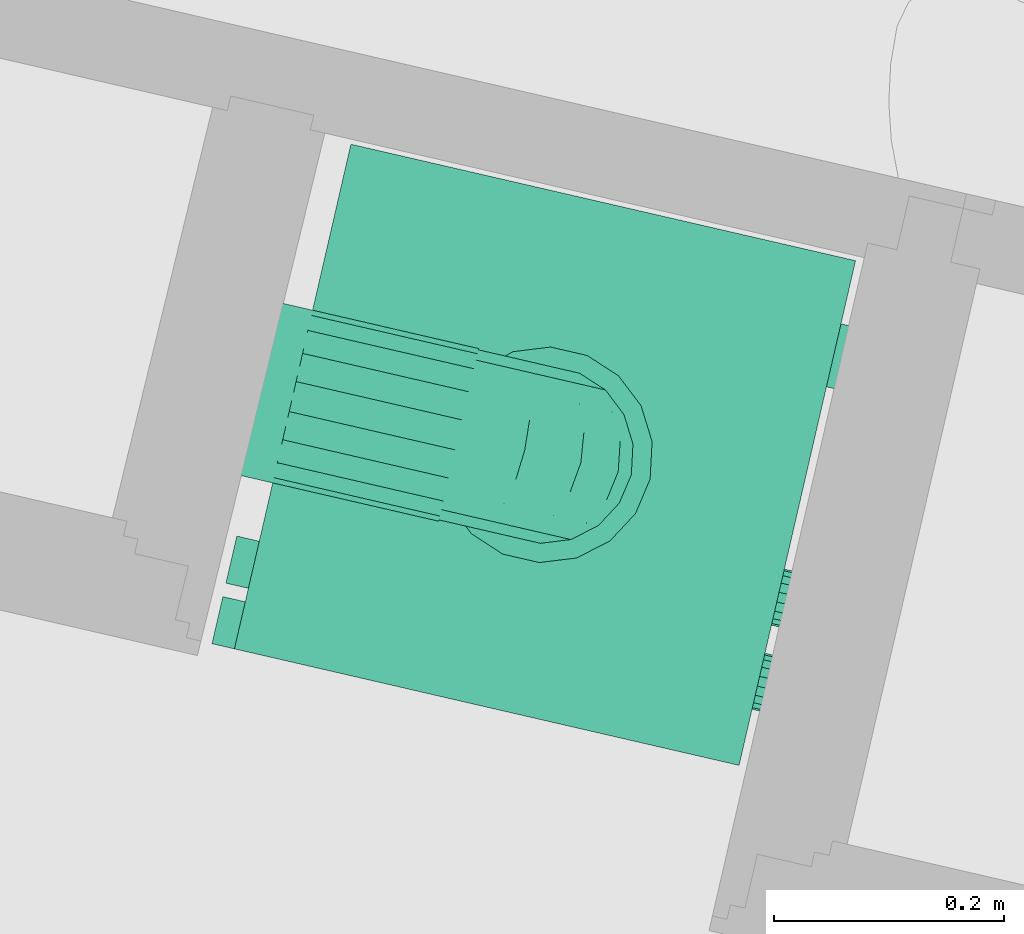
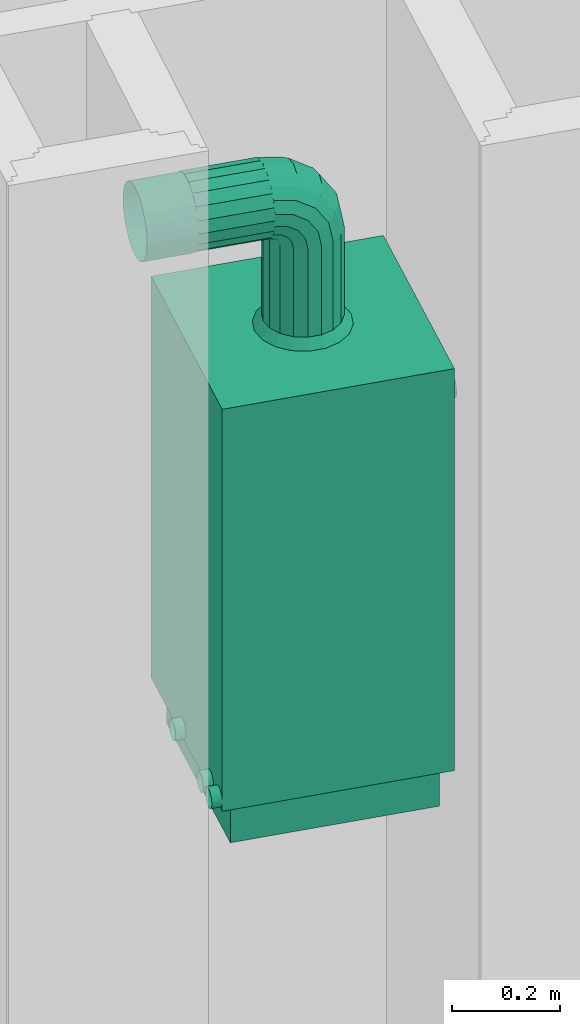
# One storey, part 76 of 90: 1 energy conversion device.
"""IFC2X3 building model written with IfcOpenShell, lengths in metres."""

from ifc_helpers import new_model, entity, si_unit, converted_unit, derived_unit, money_unit, direction, frame, origin_with_axes, place, context, subcontext, project, spatial, open_shell, faceted_brep, surface_model, source, transform, mapped, type_object, element, save


model = new_model("IFC2X3")

# Units and contexts
model_context = context("Model", 3, precision=1e-05, world=origin_with_axes(), true_north=direction((0.0, 1.0)))
body_context = subcontext(model_context, "Body", "Model", "MODEL_VIEW")
ifc_project = project(units=[si_unit("LENGTHUNIT", "METRE"), si_unit("AREAUNIT", "SQUARE_METRE"), si_unit("VOLUMEUNIT", "CUBIC_METRE"), converted_unit("PLANEANGLEUNIT", "DEGREE", entity("IfcPlaneAngleMeasure", 0.0174532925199), si_unit("PLANEANGLEUNIT", "RADIAN"), dimensions=[0, 0, 0, 0, 0, 0, 0]), si_unit("SOLIDANGLEUNIT", "STERADIAN"), money_unit("EUR"), converted_unit("TIMEUNIT", "Year", entity("IfcTimeMeasure", 31556926.0), si_unit("TIMEUNIT", "SECOND"), dimensions=[0, 0, 1, 0, 0, 0, 0]), si_unit("MASSUNIT", "GRAM", prefix="KILO"), si_unit("THERMODYNAMICTEMPERATUREUNIT", "DEGREE_CELSIUS"), si_unit("LUMINOUSINTENSITYUNIT", "LUMEN"), si_unit("ENERGYUNIT", "JOULE", prefix="MEGA"), derived_unit("THERMALCONDUCTANCEUNIT", [(si_unit("POWERUNIT", "WATT"), 1), (si_unit("LENGTHUNIT", "METRE"), -1), (si_unit("THERMODYNAMICTEMPERATUREUNIT", "KELVIN"), -1)]), derived_unit("SPECIFICHEATCAPACITYUNIT", [(si_unit("ENERGYUNIT", "JOULE"), 1), (si_unit("MASSUNIT", "GRAM", prefix="KILO"), -1), (si_unit("THERMODYNAMICTEMPERATUREUNIT", "KELVIN"), -1)]), derived_unit("MASSDENSITYUNIT", [(si_unit("MASSUNIT", "GRAM", prefix="KILO"), 1), (si_unit("VOLUMEUNIT", "CUBIC_METRE"), -1)])], contexts=[model_context])

# Site, building, storey
site_placement = place(None, origin_with_axes())
site = spatial("IfcSite", under=ifc_project, at=site_placement, Name="Site", CompositionType="ELEMENT")
building_placement = place(site_placement, origin_with_axes())
building = spatial("IfcBuilding", under=site, at=building_placement, Name="Bâtiment", CompositionType="ELEMENT")
storey_placement = place(building_placement, frame((0.0, 0.0, 2.72), z_axis=(0.0, 0.0, 1.0), x_axis=(1.0, 0.0, 0.0)))
storey = spatial("IfcBuildingStorey", under=building, at=storey_placement, Name="R+1", CompositionType="ELEMENT", Elevation=2.72)

# Energy conversion device
boiler_type = type_object("IfcBoilerType", Name="Chaudière à gaz 23", PredefinedType="WATER")
shared_shape = source(origin_with_axes(), body_context, "Body", "SurfaceModel", [
    surface_model("IfcShellBasedSurfaceModel", [(-0.2, 0.45, 0.090909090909), (-0.2, 0.47, 0.090909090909), (-0.194564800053, 0.47, 0.0916246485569), (-0.194564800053, 0.45, 0.0916246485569), (-0.205435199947, 0.45, 0.0916246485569), (-0.205435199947, 0.47, 0.0916246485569), (-0.1895, 0.47, 0.0937225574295), (-0.1895, 0.45, 0.0937225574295), (-0.2105, 0.45, 0.0937225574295), (-0.2105, 0.47, 0.0937225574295), (-0.185150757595, 0.47, 0.0970598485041), (-0.185150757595, 0.45, 0.0970598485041), (-0.214849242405, 0.45, 0.0970598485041), (-0.214849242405, 0.47, 0.0970598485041), (-0.181813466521, 0.47, 0.101409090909), (-0.181813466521, 0.45, 0.101409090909), (-0.218186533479, 0.45, 0.101409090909), (-0.218186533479, 0.47, 0.101409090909), (-0.179715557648, 0.47, 0.106473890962), (-0.179715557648, 0.45, 0.106473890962), (-0.220284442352, 0.45, 0.106473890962), (-0.220284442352, 0.47, 0.106473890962), (-0.179, 0.47, 0.111909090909), (-0.179, 0.45, 0.111909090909), (-0.221, 0.45, 0.111909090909), (-0.221, 0.47, 0.111909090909), (-0.179715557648, 0.47, 0.117344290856), (-0.179715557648, 0.45, 0.117344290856), (-0.220284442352, 0.45, 0.117344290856), (-0.220284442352, 0.47, 0.117344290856), (-0.181813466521, 0.47, 0.122409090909), (-0.181813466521, 0.45, 0.122409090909), (-0.218186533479, 0.45, 0.122409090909), (-0.218186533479, 0.47, 0.122409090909), (-0.185150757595, 0.47, 0.126758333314), (-0.185150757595, 0.45, 0.126758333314), (-0.214849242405, 0.45, 0.126758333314), (-0.214849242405, 0.47, 0.126758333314), (-0.1895, 0.47, 0.130095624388), (-0.1895, 0.45, 0.130095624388), (-0.2105, 0.45, 0.130095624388), (-0.2105, 0.47, 0.130095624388), (-0.194564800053, 0.47, 0.132193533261), (-0.194564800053, 0.45, 0.132193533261), (-0.205435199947, 0.45, 0.132193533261), (-0.205435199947, 0.47, 0.132193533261), (-0.2, 0.47, 0.132909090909), (-0.2, 0.45, 0.132909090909)], [open_shell([[[0, 1, 2, 3]], [[4, 5, 1, 0]], [[3, 2, 6, 7]], [[8, 9, 5, 4]], [[7, 6, 10, 11]], [[12, 13, 9, 8]], [[11, 10, 14, 15]], [[16, 17, 13, 12]], [[15, 14, 18, 19]], [[20, 21, 17, 16]], [[19, 18, 22, 23]], [[24, 25, 21, 20]], [[23, 22, 26, 27]], [[28, 29, 25, 24]], [[27, 26, 30, 31]], [[32, 33, 29, 28]], [[31, 30, 34, 35]], [[36, 37, 33, 32]], [[35, 34, 38, 39]], [[40, 41, 37, 36]], [[39, 38, 42, 43]], [[44, 45, 41, 40]], [[43, 42, 46, 47]], [[47, 46, 45, 44]]])]),
    surface_model("IfcShellBasedSurfaceModel", [(-0.375, 0.45, 0.090909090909), (-0.375, 0.47, 0.090909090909), (-0.369564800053, 0.47, 0.0916246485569), (-0.369564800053, 0.45, 0.0916246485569), (-0.380435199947, 0.45, 0.0916246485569), (-0.380435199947, 0.47, 0.0916246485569), (-0.3645, 0.47, 0.0937225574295), (-0.3645, 0.45, 0.0937225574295), (-0.3855, 0.45, 0.0937225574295), (-0.3855, 0.47, 0.0937225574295), (-0.360150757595, 0.47, 0.0970598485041), (-0.360150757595, 0.45, 0.0970598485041), (-0.389849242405, 0.45, 0.0970598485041), (-0.389849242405, 0.47, 0.0970598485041), (-0.356813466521, 0.47, 0.101409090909), (-0.356813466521, 0.45, 0.101409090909), (-0.393186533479, 0.45, 0.101409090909), (-0.393186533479, 0.47, 0.101409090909), (-0.354715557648, 0.47, 0.106473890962), (-0.354715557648, 0.45, 0.106473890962), (-0.395284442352, 0.45, 0.106473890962), (-0.395284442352, 0.47, 0.106473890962), (-0.354, 0.47, 0.111909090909), (-0.354, 0.45, 0.111909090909), (-0.396, 0.45, 0.111909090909), (-0.396, 0.47, 0.111909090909), (-0.354715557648, 0.47, 0.117344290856), (-0.354715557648, 0.45, 0.117344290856), (-0.395284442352, 0.45, 0.117344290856), (-0.395284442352, 0.47, 0.117344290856), (-0.356813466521, 0.47, 0.122409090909), (-0.356813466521, 0.45, 0.122409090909), (-0.393186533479, 0.45, 0.122409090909), (-0.393186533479, 0.47, 0.122409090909), (-0.360150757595, 0.47, 0.126758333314), (-0.360150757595, 0.45, 0.126758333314), (-0.389849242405, 0.45, 0.126758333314), (-0.389849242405, 0.47, 0.126758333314), (-0.3645, 0.47, 0.130095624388), (-0.3645, 0.45, 0.130095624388), (-0.3855, 0.45, 0.130095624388), (-0.3855, 0.47, 0.130095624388), (-0.369564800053, 0.47, 0.132193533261), (-0.369564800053, 0.45, 0.132193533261), (-0.380435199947, 0.45, 0.132193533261), (-0.380435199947, 0.47, 0.132193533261), (-0.375, 0.47, 0.132909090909), (-0.375, 0.45, 0.132909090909)], [open_shell([[[0, 1, 2, 3]], [[4, 5, 1, 0]], [[3, 2, 6, 7]], [[8, 9, 5, 4]], [[7, 6, 10, 11]], [[12, 13, 9, 8]], [[11, 10, 14, 15]], [[16, 17, 13, 12]], [[15, 14, 18, 19]], [[20, 21, 17, 16]], [[19, 18, 22, 23]], [[24, 25, 21, 20]], [[23, 22, 26, 27]], [[28, 29, 25, 24]], [[27, 26, 30, 31]], [[32, 33, 29, 28]], [[31, 30, 34, 35]], [[36, 37, 33, 32]], [[35, 34, 38, 39]], [[40, 41, 37, 36]], [[39, 38, 42, 43]], [[44, 45, 41, 40]], [[43, 42, 46, 47]], [[47, 46, 45, 44]]])]),
    surface_model("IfcShellBasedSurfaceModel", [(-0.429, 0.45, 0.090909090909), (-0.429, 0.47, 0.090909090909), (-0.423564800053, 0.47, 0.0916246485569), (-0.423564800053, 0.45, 0.0916246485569), (-0.434435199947, 0.45, 0.0916246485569), (-0.434435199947, 0.47, 0.0916246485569), (-0.4185, 0.47, 0.0937225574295), (-0.4185, 0.45, 0.0937225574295), (-0.4395, 0.45, 0.0937225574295), (-0.4395, 0.47, 0.0937225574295), (-0.414150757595, 0.47, 0.0970598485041), (-0.414150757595, 0.45, 0.0970598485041), (-0.443849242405, 0.45, 0.0970598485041), (-0.443849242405, 0.47, 0.0970598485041), (-0.410813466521, 0.47, 0.101409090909), (-0.410813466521, 0.45, 0.101409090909), (-0.447186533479, 0.45, 0.101409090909), (-0.447186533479, 0.47, 0.101409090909), (-0.408715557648, 0.47, 0.106473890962), (-0.408715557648, 0.45, 0.106473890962), (-0.449284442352, 0.45, 0.106473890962), (-0.449284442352, 0.47, 0.106473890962), (-0.408, 0.47, 0.111909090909), (-0.408, 0.45, 0.111909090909), (-0.45, 0.45, 0.111909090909), (-0.45, 0.47, 0.111909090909), (-0.408715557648, 0.47, 0.117344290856), (-0.408715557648, 0.45, 0.117344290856), (-0.449284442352, 0.45, 0.117344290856), (-0.449284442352, 0.47, 0.117344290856), (-0.410813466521, 0.47, 0.122409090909), (-0.410813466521, 0.45, 0.122409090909), (-0.447186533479, 0.45, 0.122409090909), (-0.447186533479, 0.47, 0.122409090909), (-0.414150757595, 0.47, 0.126758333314), (-0.414150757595, 0.45, 0.126758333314), (-0.443849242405, 0.45, 0.126758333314), (-0.443849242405, 0.47, 0.126758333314), (-0.4185, 0.47, 0.130095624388), (-0.4185, 0.45, 0.130095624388), (-0.4395, 0.45, 0.130095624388), (-0.4395, 0.47, 0.130095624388), (-0.423564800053, 0.47, 0.132193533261), (-0.423564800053, 0.45, 0.132193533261), (-0.434435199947, 0.45, 0.132193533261), (-0.434435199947, 0.47, 0.132193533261), (-0.429, 0.47, 0.132909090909), (-0.429, 0.45, 0.132909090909)], [open_shell([[[0, 1, 2, 3]], [[4, 5, 1, 0]], [[3, 2, 6, 7]], [[8, 9, 5, 4]], [[7, 6, 10, 11]], [[12, 13, 9, 8]], [[11, 10, 14, 15]], [[16, 17, 13, 12]], [[15, 14, 18, 19]], [[20, 21, 17, 16]], [[19, 18, 22, 23]], [[24, 25, 21, 20]], [[23, 22, 26, 27]], [[28, 29, 25, 24]], [[27, 26, 30, 31]], [[32, 33, 29, 28]], [[31, 30, 34, 35]], [[36, 37, 33, 32]], [[35, 34, 38, 39]], [[40, 41, 37, 36]], [[39, 38, 42, 43]], [[44, 45, 41, 40]], [[43, 42, 46, 47]], [[47, 46, 45, 44]]])]),
    surface_model("IfcShellBasedSurfaceModel", [(-0.225, 0.45, 1.218), (-0.225, 0.55, 1.218), (-0.205070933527, 0.55, 1.22062371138), (-0.205070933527, 0.45, 1.22062371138), (-0.244929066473, 0.45, 1.22062371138), (-0.244929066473, 0.55, 1.22062371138), (-0.1865, 0.55, 1.22831604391), (-0.1865, 0.45, 1.22831604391), (-0.2635, 0.45, 1.22831604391), (-0.2635, 0.55, 1.22831604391), (-0.170552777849, 0.55, 1.24055277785), (-0.170552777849, 0.45, 1.24055277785), (-0.279447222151, 0.45, 1.24055277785), (-0.279447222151, 0.55, 1.24055277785), (-0.158316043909, 0.55, 1.2565), (-0.158316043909, 0.45, 1.2565), (-0.291683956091, 0.45, 1.2565), (-0.291683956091, 0.55, 1.2565), (-0.150623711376, 0.55, 1.27507093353), (-0.150623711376, 0.45, 1.27507093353), (-0.299376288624, 0.45, 1.27507093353), (-0.299376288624, 0.55, 1.27507093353), (-0.148, 0.55, 1.295), (-0.148, 0.45, 1.295), (-0.302, 0.45, 1.295), (-0.302, 0.55, 1.295), (-0.150623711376, 0.55, 1.31492906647), (-0.150623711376, 0.45, 1.31492906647), (-0.299376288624, 0.45, 1.31492906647), (-0.299376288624, 0.55, 1.31492906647), (-0.158316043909, 0.55, 1.3335), (-0.158316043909, 0.45, 1.3335), (-0.291683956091, 0.45, 1.3335), (-0.291683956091, 0.55, 1.3335), (-0.170552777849, 0.55, 1.34944722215), (-0.170552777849, 0.45, 1.34944722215), (-0.279447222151, 0.45, 1.34944722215), (-0.279447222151, 0.55, 1.34944722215), (-0.1865, 0.55, 1.36168395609), (-0.1865, 0.45, 1.36168395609), (-0.2635, 0.45, 1.36168395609), (-0.2635, 0.55, 1.36168395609), (-0.205070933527, 0.55, 1.36937628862), (-0.205070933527, 0.45, 1.36937628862), (-0.244929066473, 0.45, 1.36937628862), (-0.244929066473, 0.55, 1.36937628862), (-0.225, 0.55, 1.372), (-0.225, 0.45, 1.372)], [open_shell([[[0, 1, 2, 3]], [[4, 5, 1, 0]], [[3, 2, 6, 7]], [[8, 9, 5, 4]], [[7, 6, 10, 11]], [[12, 13, 9, 8]], [[11, 10, 14, 15]], [[16, 17, 13, 12]], [[15, 14, 18, 19]], [[20, 21, 17, 16]], [[19, 18, 22, 23]], [[24, 25, 21, 20]], [[23, 22, 26, 27]], [[28, 29, 25, 24]], [[27, 26, 30, 31]], [[32, 33, 29, 28]], [[31, 30, 34, 35]], [[36, 37, 33, 32]], [[35, 34, 38, 39]], [[40, 41, 37, 36]], [[39, 38, 42, 43]], [[44, 45, 41, 40]], [[43, 42, 46, 47]], [[47, 46, 45, 44]]])]),
    faceted_brep([(-0.4275, 0.0225, 0.0), (-0.4275, 0.4275, 0.0), (-0.0225, 0.4275, 0.0), (-0.0225, 0.0225, 0.0), (-0.4275, 0.0225, 0.0909090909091), (-0.4275, 0.4275, 0.0909090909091), (-0.0225, 0.4275, 0.0909090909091), (-0.0225, 0.0225, 0.0909090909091)], [[[0, 1, 2, 3]], [[0, 4, 5, 1]], [[1, 5, 6, 2]], [[2, 6, 7, 3]], [[3, 7, 4, 0]], [[7, 6, 5, 4]]]),
    faceted_brep([(0.0, 0.45, 0.0909090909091), (-0.45, 0.45, 0.0909090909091), (-0.45, 0.45, 1.0), (0.0, 0.45, 1.0), (0.0, 0.0, 0.0909090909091), (-0.45, 0.0, 0.0909090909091), (-0.45, 0.0, 0.818181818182), (-0.45, 0.0225, 0.818181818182), (-0.45, 0.0225, 1.0), (0.0, 0.0225, 1.0), (0.0, 0.0225, 0.818181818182), (0.0, 0.0, 0.818181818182)], [[[0, 1, 2, 3]], [[4, 5, 1, 0]], [[1, 5, 6, 7, 8, 2]], [[3, 2, 8, 9]], [[0, 3, 9, 10, 11, 4]], [[11, 6, 5, 4]], [[10, 7, 6, 11]], [[9, 8, 7, 10]]]),
    faceted_brep([(-0.45, 0.0, 0.818181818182), (-0.45, 0.0225, 0.818181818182), (0.0, 0.0225, 0.818181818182), (0.0, 0.0, 0.818181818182), (-0.45, 0.0, 1.0), (-0.45, 0.0225, 1.0), (0.0, 0.0225, 1.0), (0.0, 0.0, 1.0)], [[[0, 1, 2, 3]], [[0, 4, 5, 1]], [[1, 5, 6, 2]], [[2, 6, 7, 3]], [[3, 7, 4, 0]], [[7, 6, 5, 4]]]),
    faceted_brep([(-0.32349231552, 0.0, 0.900540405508), (-0.325, 0.0, 0.909090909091), (-0.32349231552, 0.0, 0.917641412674), (-0.319151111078, 0.0, 0.925160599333), (-0.3125, 0.0, 0.930741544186), (-0.304341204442, 0.0, 0.933711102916), (-0.295658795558, 0.0, 0.933711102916), (-0.2875, 0.0, 0.930741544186), (-0.280848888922, 0.0, 0.925160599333), (-0.27650768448, 0.0, 0.917641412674), (-0.275, 0.0, 0.909090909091), (-0.27650768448, 0.0, 0.900540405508), (-0.280848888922, 0.0, 0.893021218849), (-0.2875, 0.0, 0.887440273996), (-0.295658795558, 0.0, 0.884470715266), (-0.304341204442, 0.0, 0.884470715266), (-0.3125, 0.0, 0.887440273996), (-0.319151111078, 0.0, 0.893021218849), (-0.32349231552, -0.02, 0.900540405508), (-0.325, -0.02, 0.909090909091), (-0.32349231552, -0.02, 0.917641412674), (-0.319151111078, -0.02, 0.925160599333), (-0.3125, -0.02, 0.930741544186), (-0.304341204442, -0.02, 0.933711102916), (-0.295658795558, -0.02, 0.933711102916), (-0.2875, -0.02, 0.930741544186), (-0.280848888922, -0.02, 0.925160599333), (-0.27650768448, -0.02, 0.917641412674), (-0.275, -0.02, 0.909090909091), (-0.27650768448, -0.02, 0.900540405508), (-0.280848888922, -0.02, 0.893021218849), (-0.2875, -0.02, 0.887440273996), (-0.295658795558, -0.02, 0.884470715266), (-0.304341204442, -0.02, 0.884470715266), (-0.3125, -0.02, 0.887440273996), (-0.319151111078, -0.02, 0.893021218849)], [[[0, 1, 2, 3, 4, 5, 6, 7, 8, 9, 10, 11, 12, 13, 14, 15, 16, 17]], [[0, 18, 19, 1]], [[1, 19, 20, 2]], [[2, 20, 21, 3]], [[3, 21, 22, 4]], [[4, 22, 23, 5]], [[5, 23, 24, 6]], [[6, 24, 25, 7]], [[7, 25, 26, 8]], [[8, 26, 27, 9]], [[9, 27, 28, 10]], [[10, 28, 29, 11]], [[11, 29, 30, 12]], [[12, 30, 31, 13]], [[13, 31, 32, 14]], [[14, 32, 33, 15]], [[15, 33, 34, 16]], [[16, 34, 35, 17]], [[17, 35, 18, 0]], [[18, 35, 34, 33, 32, 31, 30, 29, 28, 27, 26, 25, 24, 23, 22, 21, 20, 19]]]),
    faceted_brep([(-0.39849231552, 0.0, 0.900540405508), (-0.4, 0.0, 0.909090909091), (-0.39849231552, 0.0, 0.917641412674), (-0.394151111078, 0.0, 0.925160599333), (-0.3875, 0.0, 0.930741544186), (-0.379341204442, 0.0, 0.933711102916), (-0.370658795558, 0.0, 0.933711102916), (-0.3625, 0.0, 0.930741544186), (-0.355848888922, 0.0, 0.925160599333), (-0.35150768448, 0.0, 0.917641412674), (-0.35, 0.0, 0.909090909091), (-0.35150768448, 0.0, 0.900540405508), (-0.355848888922, 0.0, 0.893021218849), (-0.3625, 0.0, 0.887440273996), (-0.370658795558, 0.0, 0.884470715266), (-0.379341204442, 0.0, 0.884470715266), (-0.3875, 0.0, 0.887440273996), (-0.394151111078, 0.0, 0.893021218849), (-0.39849231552, -0.02, 0.900540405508), (-0.4, -0.02, 0.909090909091), (-0.39849231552, -0.02, 0.917641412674), (-0.394151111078, -0.02, 0.925160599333), (-0.3875, -0.02, 0.930741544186), (-0.379341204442, -0.02, 0.933711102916), (-0.370658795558, -0.02, 0.933711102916), (-0.3625, -0.02, 0.930741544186), (-0.355848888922, -0.02, 0.925160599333), (-0.35150768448, -0.02, 0.917641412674), (-0.35, -0.02, 0.909090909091), (-0.35150768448, -0.02, 0.900540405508), (-0.355848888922, -0.02, 0.893021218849), (-0.3625, -0.02, 0.887440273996), (-0.370658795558, -0.02, 0.884470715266), (-0.379341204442, -0.02, 0.884470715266), (-0.3875, -0.02, 0.887440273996), (-0.394151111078, -0.02, 0.893021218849)], [[[0, 1, 2, 3, 4, 5, 6, 7, 8, 9, 10, 11, 12, 13, 14, 15, 16, 17]], [[0, 18, 19, 1]], [[1, 19, 20, 2]], [[2, 20, 21, 3]], [[3, 21, 22, 4]], [[4, 22, 23, 5]], [[5, 23, 24, 6]], [[6, 24, 25, 7]], [[7, 25, 26, 8]], [[8, 26, 27, 9]], [[9, 27, 28, 10]], [[10, 28, 29, 11]], [[11, 29, 30, 12]], [[12, 30, 31, 13]], [[13, 31, 32, 14]], [[14, 32, 33, 15]], [[15, 33, 34, 16]], [[16, 34, 35, 17]], [[17, 35, 18, 0]], [[18, 35, 34, 33, 32, 31, 30, 29, 28, 27, 26, 25, 24, 23, 22, 21, 20, 19]]]),
    faceted_brep([(-0.1125, 0.0, 0.878787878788), (-0.1125, 0.0, 0.939393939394), (-0.05625, 0.0, 0.939393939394), (-0.05625, 0.0, 0.878787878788), (-0.1125, -0.02, 0.878787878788), (-0.1125, -0.02, 0.939393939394), (-0.05625, -0.02, 0.939393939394), (-0.05625, -0.02, 0.878787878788)], [[[0, 1, 2, 3]], [[0, 4, 5, 1]], [[1, 5, 6, 2]], [[2, 6, 7, 3]], [[3, 7, 4, 0]], [[7, 6, 5, 4]]]),
    surface_model("IfcShellBasedSurfaceModel", [(-0.198664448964, 0.297356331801, 1.22), (-0.198664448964, 0.297356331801, 1.02), (-0.225, 0.302, 1.02), (-0.225, 0.302, 1.22), (-0.175505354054, 0.28398542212, 1.22), (-0.175505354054, 0.28398542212, 1.02), (-0.192935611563, 0.313096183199, 1.0), (-0.225, 0.31875, 1.0), (-0.251335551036, 0.297356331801, 1.02), (-0.251335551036, 0.297356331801, 1.22), (-0.158316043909, 0.2635, 1.22), (-0.158316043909, 0.2635, 1.02), (-0.164738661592, 0.296816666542, 1.0), (-0.257064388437, 0.313096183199, 1.0), (-0.274494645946, 0.28398542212, 1.02), (-0.274494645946, 0.28398542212, 1.22), (-0.149169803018, 0.23837090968, 1.22), (-0.149169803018, 0.23837090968, 1.02), (-0.143810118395, 0.271875, 1.0), (-0.285261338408, 0.296816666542, 1.0), (-0.291683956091, 0.2635, 1.02), (-0.291683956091, 0.2635, 1.22), (-0.149169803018, 0.21162909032, 1.22), (-0.149169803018, 0.21162909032, 1.02), (-0.132674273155, 0.241279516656, 1.0), (-0.306189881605, 0.271875, 1.0), (-0.300830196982, 0.23837090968, 1.02), (-0.300830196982, 0.23837090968, 1.22), (-0.158316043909, 0.1865, 1.22), (-0.158316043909, 0.1865, 1.02), (-0.132674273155, 0.208720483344, 1.0), (-0.317325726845, 0.241279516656, 1.0), (-0.300830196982, 0.21162909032, 1.02), (-0.300830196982, 0.21162909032, 1.22), (-0.175505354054, 0.16601457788, 1.22), (-0.175505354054, 0.16601457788, 1.02), (-0.143810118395, 0.178125, 1.0), (-0.317325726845, 0.208720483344, 1.0), (-0.291683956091, 0.1865, 1.02), (-0.291683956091, 0.1865, 1.22), (-0.198664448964, 0.152643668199, 1.22), (-0.198664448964, 0.152643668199, 1.02), (-0.164738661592, 0.153183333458, 1.0), (-0.306189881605, 0.178125, 1.0), (-0.274494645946, 0.16601457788, 1.02), (-0.274494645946, 0.16601457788, 1.22), (-0.225, 0.148, 1.22), (-0.225, 0.148, 1.02), (-0.192935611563, 0.136903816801, 1.0), (-0.285261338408, 0.153183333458, 1.0), (-0.251335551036, 0.152643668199, 1.02), (-0.251335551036, 0.152643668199, 1.22), (-0.225, 0.13125, 1.0), (-0.257064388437, 0.136903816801, 1.0)], [open_shell([[[0, 1, 2, 3]], [[4, 5, 1, 0]], [[1, 6, 7, 2]], [[3, 2, 8, 9]], [[10, 11, 5, 4]], [[5, 12, 6, 1]], [[2, 7, 13, 8]], [[9, 8, 14, 15]], [[16, 17, 11, 10]], [[11, 18, 12, 5]], [[8, 13, 19, 14]], [[15, 14, 20, 21]], [[22, 23, 17, 16]], [[17, 24, 18, 11]], [[14, 19, 25, 20]], [[21, 20, 26, 27]], [[28, 29, 23, 22]], [[23, 30, 24, 17]], [[20, 25, 31, 26]], [[27, 26, 32, 33]], [[34, 35, 29, 28]], [[29, 36, 30, 23]], [[26, 31, 37, 32]], [[33, 32, 38, 39]], [[40, 41, 35, 34]], [[35, 42, 36, 29]], [[32, 37, 43, 38]], [[39, 38, 44, 45]], [[46, 47, 41, 40]], [[41, 48, 42, 35]], [[38, 43, 49, 44]], [[45, 44, 50, 51]], [[51, 50, 47, 46]], [[47, 52, 48, 41]], [[44, 49, 53, 50]], [[50, 53, 52, 47]]])]),
    faceted_brep([(-0.300830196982, 0.218508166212, 1.2545834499), (-0.300830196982, 0.21162909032, 1.22), (-0.291683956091, 0.1865, 1.22), (-0.291683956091, 0.195291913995, 1.26419993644), (-0.300830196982, 0.243214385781, 1.24434979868), (-0.300830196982, 0.23837090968, 1.22), (-0.291683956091, 0.2635, 1.22), (-0.274494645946, 0.28398542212, 1.22), (-0.251335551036, 0.297356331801, 1.22), (-0.225, 0.302, 1.22), (-0.198664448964, 0.297356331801, 1.22), (-0.175505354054, 0.28398542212, 1.22), (-0.158316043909, 0.2635, 1.22), (-0.149169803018, 0.23837090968, 1.22), (-0.149169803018, 0.21162909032, 1.22), (-0.158316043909, 0.1865, 1.22), (-0.175505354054, 0.16601457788, 1.22), (-0.198664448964, 0.152643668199, 1.22), (-0.225, 0.148, 1.22), (-0.251335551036, 0.152643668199, 1.22), (-0.274494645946, 0.16601457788, 1.22), (-0.274494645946, 0.176365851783, 1.27203936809), (-0.300830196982, 0.238098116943, 1.28390188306), (-0.291683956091, 0.220329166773, 1.30167083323), (-0.300830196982, 0.257007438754, 1.26499256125), (-0.291683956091, 0.266430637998, 1.23473331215), (-0.274494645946, 0.28535670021, 1.2268938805), (-0.251335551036, 0.297709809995, 1.22177705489), (-0.198664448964, 0.297709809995, 1.22177705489), (-0.175505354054, 0.28535670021, 1.2268938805), (-0.158316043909, 0.266430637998, 1.23473331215), (-0.149169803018, 0.243214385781, 1.24434979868), (-0.149169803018, 0.218508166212, 1.2545834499), (-0.158316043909, 0.195291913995, 1.26419993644), (-0.175505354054, 0.176365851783, 1.27203936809), (-0.198664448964, 0.164012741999, 1.2771561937), (-0.225, 0.159722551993, 1.27893324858), (-0.251335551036, 0.164012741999, 1.2771561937), (-0.274494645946, 0.205843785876, 1.31615621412), (-0.291683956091, 0.257800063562, 1.32670808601), (-0.300830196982, 0.267416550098, 1.30349183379), (-0.300830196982, 0.277650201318, 1.27878561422), (-0.291683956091, 0.274776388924, 1.24722361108), (-0.274494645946, 0.289261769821, 1.23273823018), (-0.251335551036, 0.298716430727, 1.22328356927), (-0.198664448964, 0.298716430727, 1.22328356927), (-0.175505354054, 0.289261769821, 1.23273823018), (-0.158316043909, 0.274776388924, 1.24722361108), (-0.149169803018, 0.257007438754, 1.26499256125), (-0.149169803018, 0.238098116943, 1.28390188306), (-0.158316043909, 0.220329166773, 1.30167083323), (-0.175505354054, 0.205843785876, 1.31615621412), (-0.198664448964, 0.196389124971, 1.32561087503), (-0.225, 0.193105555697, 1.3288944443), (-0.251335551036, 0.196389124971, 1.32561087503), (-0.274494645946, 0.249960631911, 1.34563414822), (-0.291683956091, 0.302, 1.3355), (-0.300830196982, 0.302, 1.31037090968), (-0.300830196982, 0.302, 1.28362909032), (-0.291683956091, 0.287266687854, 1.255569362), (-0.274494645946, 0.295106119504, 1.23664329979), (-0.251335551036, 0.300222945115, 1.22429019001), (-0.198664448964, 0.300222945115, 1.22429019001), (-0.175505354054, 0.295106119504, 1.23664329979), (-0.158316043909, 0.287266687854, 1.255569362), (-0.149169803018, 0.277650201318, 1.27878561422), (-0.149169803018, 0.267416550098, 1.30349183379), (-0.158316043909, 0.257800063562, 1.32670808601), (-0.175505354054, 0.249960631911, 1.34563414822), (-0.198664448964, 0.244843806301, 1.357987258), (-0.225, 0.243066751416, 1.36227744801), (-0.251335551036, 0.244843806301, 1.357987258), (-0.274494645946, 0.302, 1.35598542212), (-0.291683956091, 0.302, 1.2585), (-0.251335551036, 0.302, 1.3693563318), (-0.225, 0.302, 1.374), (-0.198664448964, 0.302, 1.3693563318), (-0.175505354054, 0.302, 1.35598542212), (-0.158316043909, 0.302, 1.3355), (-0.149169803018, 0.302, 1.31037090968), (-0.149169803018, 0.302, 1.28362909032), (-0.158316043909, 0.302, 1.2585), (-0.175505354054, 0.302, 1.23801457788), (-0.198664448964, 0.302, 1.2246436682), (-0.251335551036, 0.302, 1.2246436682), (-0.274494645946, 0.302, 1.23801457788)], [[[0, 1, 2, 3]], [[1, 0, 4, 5]], [[2, 1, 5, 6, 7, 8, 9, 10, 11, 12, 13, 14, 15, 16, 17, 18, 19, 20]], [[3, 2, 20, 21]], [[22, 0, 3, 23]], [[0, 22, 24, 4]], [[6, 5, 4, 25]], [[26, 7, 6, 25]], [[7, 26, 27, 8]], [[8, 27, 9]], [[28, 10, 9]], [[10, 28, 29, 11]], [[30, 12, 11, 29]], [[12, 30, 31, 13]], [[32, 14, 13, 31]], [[15, 14, 32, 33]], [[34, 16, 15, 33]], [[17, 16, 34, 35]], [[36, 18, 17, 35]], [[19, 18, 36, 37]], [[21, 20, 19, 37]], [[23, 3, 21, 38]], [[22, 23, 39, 40]], [[24, 22, 40, 41]], [[4, 24, 42, 25]], [[43, 26, 25, 42]], [[26, 43, 44, 27]], [[27, 44, 9]], [[45, 28, 9]], [[28, 45, 46, 29]], [[29, 46, 47, 30]], [[31, 30, 47, 48]], [[49, 32, 31, 48]], [[32, 49, 50, 33]], [[51, 34, 33, 50]], [[35, 34, 51, 52]], [[53, 36, 35, 52]], [[54, 37, 36, 53]], [[38, 21, 37, 54]], [[39, 23, 38, 55]], [[40, 39, 56, 57]], [[41, 40, 57, 58]], [[59, 42, 24, 41]], [[42, 59, 60, 43]], [[43, 60, 61, 44]], [[44, 61, 9]], [[62, 45, 9]], [[45, 62, 63, 46]], [[46, 63, 64, 47]], [[47, 64, 65, 48]], [[66, 49, 48, 65]], [[50, 49, 66, 67]], [[68, 51, 50, 67]], [[52, 51, 68, 69]], [[53, 52, 69, 70]], [[71, 54, 53, 70]], [[55, 38, 54, 71]], [[56, 39, 55, 72]], [[73, 58, 57, 56, 72, 74, 75, 76, 77, 78, 79, 80, 81, 82, 83, 9, 84, 85]], [[59, 41, 58, 73]], [[59, 73, 85, 60]], [[60, 85, 84, 61]], [[61, 84, 9]], [[62, 9, 83]], [[63, 62, 83, 82]], [[63, 82, 81, 64]], [[65, 64, 81, 80]], [[66, 65, 80, 79]], [[67, 66, 79, 78]], [[77, 68, 67, 78]], [[69, 68, 77, 76]], [[75, 70, 69, 76]], [[71, 70, 75, 74]], [[72, 55, 71, 74]]]),
    surface_model("IfcShellBasedSurfaceModel", [(-0.152643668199, 0.45, 1.32333555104), (-0.152643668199, 0.302, 1.32333555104), (-0.148, 0.302, 1.297), (-0.148, 0.45, 1.297), (-0.16601457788, 0.45, 1.34649464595), (-0.16601457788, 0.302, 1.34649464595), (-0.152643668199, 0.302, 1.27066444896), (-0.152643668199, 0.45, 1.27066444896), (-0.1865, 0.45, 1.36368395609), (-0.1865, 0.302, 1.36368395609), (-0.16601457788, 0.302, 1.24750535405), (-0.16601457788, 0.45, 1.24750535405), (-0.21162909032, 0.45, 1.37283019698), (-0.21162909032, 0.302, 1.37283019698), (-0.1865, 0.302, 1.23031604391), (-0.1865, 0.45, 1.23031604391), (-0.23837090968, 0.45, 1.37283019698), (-0.23837090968, 0.302, 1.37283019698), (-0.21162909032, 0.302, 1.22116980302), (-0.21162909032, 0.45, 1.22116980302), (-0.2635, 0.45, 1.36368395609), (-0.2635, 0.302, 1.36368395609), (-0.23837090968, 0.302, 1.22116980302), (-0.23837090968, 0.45, 1.22116980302), (-0.28398542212, 0.45, 1.34649464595), (-0.28398542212, 0.302, 1.34649464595), (-0.2635, 0.302, 1.23031604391), (-0.2635, 0.45, 1.23031604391), (-0.297356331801, 0.45, 1.32333555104), (-0.297356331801, 0.302, 1.32333555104), (-0.28398542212, 0.302, 1.24750535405), (-0.28398542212, 0.45, 1.24750535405), (-0.302, 0.45, 1.297), (-0.302, 0.302, 1.297), (-0.297356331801, 0.302, 1.27066444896), (-0.297356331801, 0.45, 1.27066444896)], [open_shell([[[0, 1, 2, 3]], [[4, 5, 1, 0]], [[3, 2, 6, 7]], [[8, 9, 5, 4]], [[7, 6, 10, 11]], [[12, 13, 9, 8]], [[11, 10, 14, 15]], [[16, 17, 13, 12]], [[15, 14, 18, 19]], [[20, 21, 17, 16]], [[19, 18, 22, 23]], [[24, 25, 21, 20]], [[23, 22, 26, 27]], [[28, 29, 25, 24]], [[27, 26, 30, 31]], [[32, 33, 29, 28]], [[31, 30, 34, 35]], [[35, 34, 33, 32]]])]),
])
energy_conversion_device_placement = place(storey_placement, frame((-12.2661064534, -3.1479817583, 0.9), z_axis=(0.0, 0.0, 1.0), x_axis=(0.224876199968, 0.974387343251, 0.0)))
element("IfcEnergyConversionDevice", 1, at=energy_conversion_device_placement, inside=storey, type_object=boiler_type, Name="MOB-002", context=body_context, shape_type="MappedRepresentation", body=[
    mapped(shared_shape, transform((0.0, 0.0, 0.0))),
])

save(model, "model.ifc")
